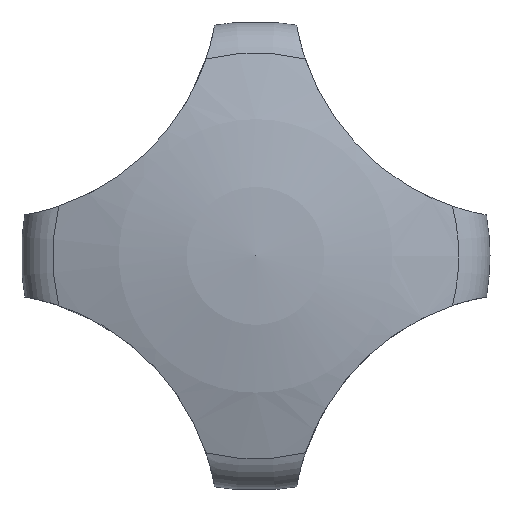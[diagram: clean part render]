
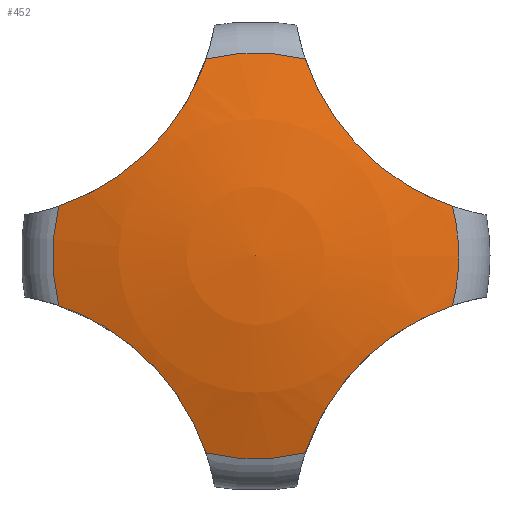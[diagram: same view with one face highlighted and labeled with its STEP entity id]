
A CAD part, top view. The second image highlights one B-rep face of the part: STEP entity #452.
In plain terms, the highlighted spherical face has radius 65.527 mm.
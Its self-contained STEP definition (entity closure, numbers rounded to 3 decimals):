
#198=CARTESIAN_POINT('',(5.305,20.993,29.319));
#199=VERTEX_POINT('',#198);
#213=CARTESIAN_POINT('',(-5.305,20.993,29.319));
#214=VERTEX_POINT('',#213);
#215=CARTESIAN_POINT('',(0.,0.,29.319));
#216=DIRECTION('',(0.245,0.97,0.));
#217=DIRECTION('',(0.,0.,1.));
#218=AXIS2_PLACEMENT_3D('',#215,#217,#216);
#219=CIRCLE('',#218,21.653);
#220=EDGE_CURVE('',#199,#214,#219,.T.);
#243=CARTESIAN_POINT('',(21.653,0.,29.319));
#244=VERTEX_POINT('',#243);
#245=CARTESIAN_POINT('',(20.993,5.305,29.319));
#246=VERTEX_POINT('',#245);
#247=CARTESIAN_POINT('',(0.,0.,29.319));
#248=DIRECTION('',(1.,0.,0.));
#249=DIRECTION('',(0.,0.,1.));
#250=AXIS2_PLACEMENT_3D('',#247,#249,#248);
#251=CIRCLE('',#250,21.653);
#252=EDGE_CURVE('',#244,#246,#251,.T.);
#269=CARTESIAN_POINT('',(20.993,-5.305,29.319));
#270=VERTEX_POINT('',#269);
#284=CARTESIAN_POINT('',(0.,0.,29.319));
#285=DIRECTION('',(0.97,-0.245,0.));
#286=DIRECTION('',(0.,-0.,1.));
#287=AXIS2_PLACEMENT_3D('',#284,#286,#285);
#288=CIRCLE('',#287,21.653);
#289=EDGE_CURVE('',#270,#244,#288,.T.);
#299=CARTESIAN_POINT('',(-20.993,5.305,29.319));
#300=VERTEX_POINT('',#299);
#301=CARTESIAN_POINT('',(-20.993,-5.305,29.319));
#302=VERTEX_POINT('',#301);
#303=CARTESIAN_POINT('',(0.,0.,29.319));
#304=DIRECTION('',(-0.97,0.245,0.));
#305=DIRECTION('',(0.,0.,1.));
#306=AXIS2_PLACEMENT_3D('',#303,#305,#304);
#307=CIRCLE('',#306,21.653);
#308=EDGE_CURVE('',#300,#302,#307,.T.);
#346=CARTESIAN_POINT('',(-5.305,-20.993,29.319));
#347=VERTEX_POINT('',#346);
#361=CARTESIAN_POINT('',(5.305,-20.993,29.319));
#362=VERTEX_POINT('',#361);
#363=CARTESIAN_POINT('',(0.,0.,29.319));
#364=DIRECTION('',(-0.245,-0.97,0.));
#365=DIRECTION('',(-0.,0.,1.));
#366=AXIS2_PLACEMENT_3D('',#363,#365,#364);
#367=CIRCLE('',#366,21.653);
#368=EDGE_CURVE('',#347,#362,#367,.T.);
#386=CARTESIAN_POINT('',(0.,0.,-32.527));
#387=DIRECTION('',(1.,0.,0.));
#388=DIRECTION('',(0.,0.,1.));
#389=AXIS2_PLACEMENT_3D('',#386,#388,#387);
#390=SPHERICAL_SURFACE('',#389,65.527);
#391=CARTESIAN_POINT('',(0.,0.,33.));
#392=VERTEX_POINT('',#391);
#393=CARTESIAN_POINT('',(0.,0.,-32.527));
#394=DIRECTION('',(0.33,0.,0.944));
#395=DIRECTION('',(-0.,-1.,0.));
#396=AXIS2_PLACEMENT_3D('',#393,#395,#394);
#397=CIRCLE('',#396,65.527);
#398=EDGE_CURVE('',#244,#392,#397,.T.);
#399=ORIENTED_EDGE('E5',*,*,#398,.T.);
#400=ORIENTED_EDGE('E11',*,*,#398,.F.);
#401=ORIENTED_EDGE('E11',*,*,#289,.F.);
#402=CARTESIAN_POINT('',(20.993,-5.305,29.319));
#403=CARTESIAN_POINT('',(20.34,-5.526,29.522));
#404=CARTESIAN_POINT('',(18.395,-6.273,30.08));
#405=CARTESIAN_POINT('',(16.523,-7.276,30.48));
#406=CARTESIAN_POINT('',(12.21,-10.09,31.168));
#407=CARTESIAN_POINT('',(8.206,-14.24,31.105));
#408=CARTESIAN_POINT('',(5.883,-19.281,29.851));
#409=CARTESIAN_POINT('',(5.305,-20.993,29.319));
#410=B_SPLINE_CURVE_WITH_KNOTS('',3,(#402,#403,#404,#405,#406,#407,#408,#409),.UNSPECIFIED.,.F.,.U.,(4,1,2,1,4),(0.,0.127,0.382,1.049,1.382),.UNSPECIFIED.);
#411=EDGE_CURVE('',#270,#362,#410,.T.);
#412=ORIENTED_EDGE('E31',*,*,#411,.T.);
#413=ORIENTED_EDGE('E31',*,*,#368,.F.);
#414=CARTESIAN_POINT('',(-5.305,-20.993,29.319));
#415=CARTESIAN_POINT('',(-5.526,-20.34,29.522));
#416=CARTESIAN_POINT('',(-6.273,-18.395,30.08));
#417=CARTESIAN_POINT('',(-7.276,-16.523,30.48));
#418=CARTESIAN_POINT('',(-10.09,-12.21,31.168));
#419=CARTESIAN_POINT('',(-14.24,-8.206,31.105));
#420=CARTESIAN_POINT('',(-19.281,-5.883,29.851));
#421=CARTESIAN_POINT('',(-20.993,-5.305,29.319));
#422=B_SPLINE_CURVE_WITH_KNOTS('',3,(#414,#415,#416,#417,#418,#419,#420,#421),.UNSPECIFIED.,.F.,.U.,(4,1,2,1,4),(0.,0.127,0.382,1.049,1.382),.UNSPECIFIED.);
#423=EDGE_CURVE('',#347,#302,#422,.T.);
#424=ORIENTED_EDGE('E35',*,*,#423,.T.);
#425=ORIENTED_EDGE('E35',*,*,#308,.F.);
#426=CARTESIAN_POINT('',(-20.993,5.305,29.319));
#427=CARTESIAN_POINT('',(-20.316,5.534,29.529));
#428=CARTESIAN_POINT('',(-18.301,6.311,30.106));
#429=CARTESIAN_POINT('',(-16.366,7.363,30.512));
#430=CARTESIAN_POINT('',(-12.076,10.219,31.17));
#431=CARTESIAN_POINT('',(-8.157,14.334,31.084));
#432=CARTESIAN_POINT('',(-5.875,19.305,29.843));
#433=CARTESIAN_POINT('',(-5.305,20.993,29.319));
#434=B_SPLINE_CURVE_WITH_KNOTS('',3,(#426,#427,#428,#429,#430,#431,#432,#433),.UNSPECIFIED.,.F.,.U.,(4,1,2,1,4),(0.,0.134,0.402,1.068,1.402),.UNSPECIFIED.);
#435=EDGE_CURVE('',#300,#214,#434,.T.);
#436=ORIENTED_EDGE('E23',*,*,#435,.T.);
#437=ORIENTED_EDGE('E23',*,*,#220,.F.);
#438=CARTESIAN_POINT('',(5.305,20.993,29.319));
#439=CARTESIAN_POINT('',(5.534,20.316,29.529));
#440=CARTESIAN_POINT('',(6.311,18.301,30.106));
#441=CARTESIAN_POINT('',(7.363,16.366,30.512));
#442=CARTESIAN_POINT('',(10.219,12.076,31.17));
#443=CARTESIAN_POINT('',(14.334,8.157,31.084));
#444=CARTESIAN_POINT('',(19.305,5.875,29.843));
#445=CARTESIAN_POINT('',(20.993,5.305,29.319));
#446=B_SPLINE_CURVE_WITH_KNOTS('',3,(#438,#439,#440,#441,#442,#443,#444,#445),.UNSPECIFIED.,.F.,.U.,(4,1,2,1,4),(0.,0.134,0.402,1.068,1.402),.UNSPECIFIED.);
#447=EDGE_CURVE('',#199,#246,#446,.T.);
#448=ORIENTED_EDGE('E27',*,*,#447,.T.);
#449=ORIENTED_EDGE('E27',*,*,#252,.F.);
#450=EDGE_LOOP('',(#399,#400,#401,#412,#413,#424,#425,#436,#437,#448,#449));
#451=FACE_OUTER_BOUND('',#450,.F.);
#452=ADVANCED_FACE('F6',(#451),#390,.T.);
